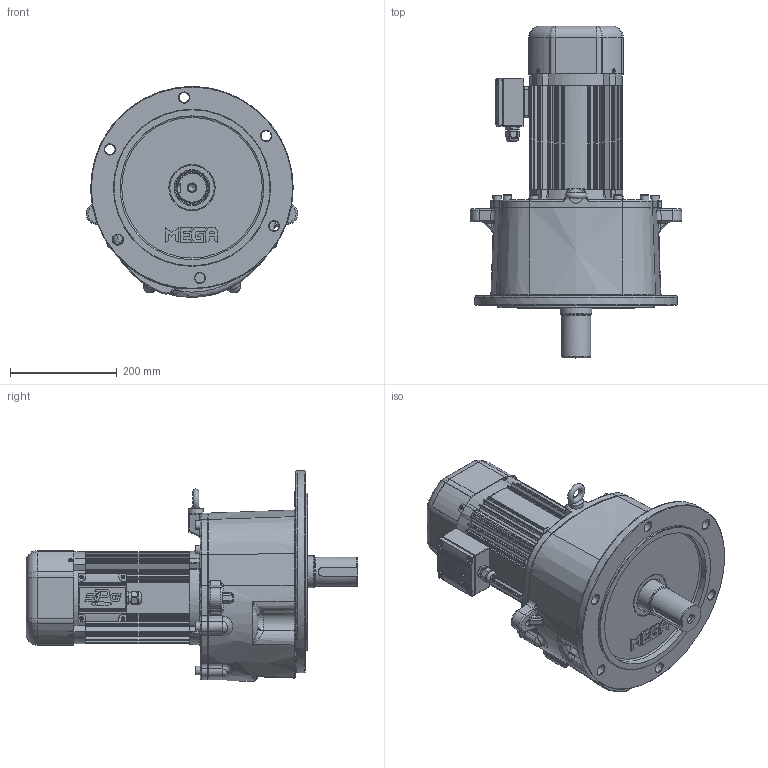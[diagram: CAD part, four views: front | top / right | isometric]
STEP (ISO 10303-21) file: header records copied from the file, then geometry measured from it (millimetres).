
FILE_DESCRIPTION(/* description */ (''),/* implementation_level */ '2;1');
FILE_NAME(/* name */ 'Z:\동력 3D 파일\PMK205_1.5kW_Brake_3D.stp',/* time_stamp */ '2021-12-01T08:39:54+09:00',/* author */ ('jaebok'),/* organization */ (''),/* preprocessor_version */ 'ST-DEVELOPER v18.1',/* originating_system */ 'Autodesk Inventor 2022',/* authorisation */ '');
FILE_SCHEMA (('AUTOMOTIVE_DESIGN { 1 0 10303 214 3 1 1 }'));
Products named in the file (1): 부품2
Bounding box: 397 x 623.3 x 395.96 mm (x, y, z)
Volume: 10312292.3 mm3; surface area: 1584489.2 mm2
Topology: 2 solids, 41 shells, 2892 faces, 7210 edges, 4324 vertices
Faces by surface type: plane 1004, cylinder 809, bspline 505, torus 264, cone 176, sphere 134
Full cylindrical faces by diameter (mm): 3.25 x1, 3.6 x4, 4 x21, 4.917 x4, 5 x13, 6 x5, 6.647 x8, 7 x12, 8 x5, 8.376 x1, 10 x9, 10.106 x3, 11 x8, 12 x1, 12.5 x1, 13.835 x1, 15 x1, 16 x8, 19 x6, 20 x3, 21 x1, 23.6 x1, 25 x1, 28 x1, 36 x1, 40 x1, 45 x1, 50 x1, 52 x2, 55 x1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
Entity records: 110432 total; most frequent: CARTESIAN_POINT 41174, ORIENTED_EDGE 14056, DIRECTION 13853, EDGE_CURVE 7028, AXIS2_PLACEMENT_3D 5523, VERTEX_POINT 4324, EDGE_LOOP 3132, CIRCLE 3002
